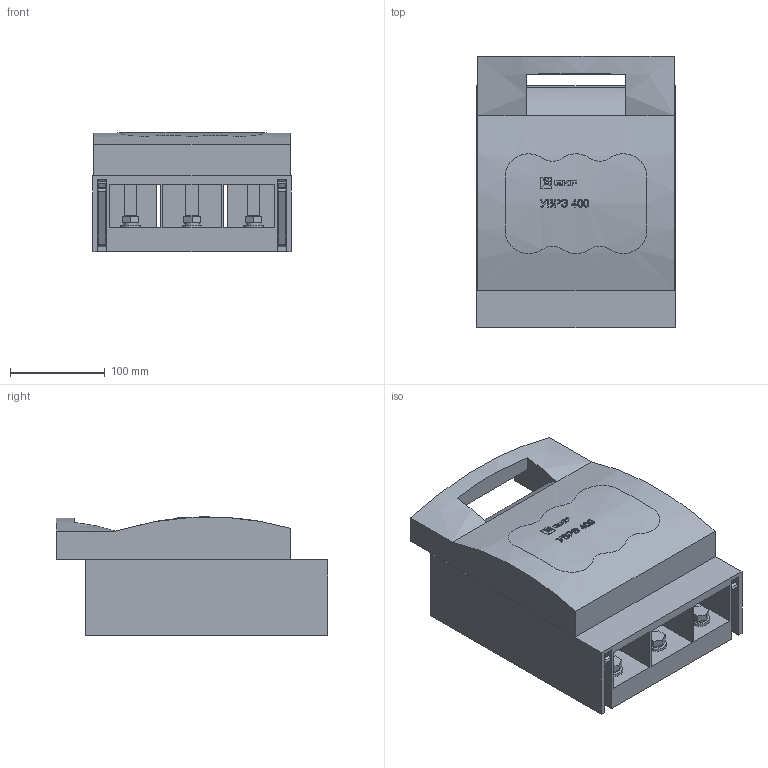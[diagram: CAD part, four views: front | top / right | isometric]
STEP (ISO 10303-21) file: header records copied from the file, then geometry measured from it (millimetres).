
FILE_DESCRIPTION (( 'STEP AP214' ), '1' );
FILE_NAME ('ÓÂÐÝ 400À îòêèäíîãî òèïà ïîä ïðåäîõðàíèòåëè ÏÏÍ (uvre-400).STEP', '2020-08-21T06:12:15', ( '' ), ( '' ), 'SwSTEP 2.0', 'SolidWorks 2019', '' );
FILE_SCHEMA (( 'AUTOMOTIVE_DESIGN' ));
Length unit declared in the file: millimetre
Products named in the file (3): Êðûøêà 400À; ÓÂÐÝ 400À îòêèäíîãî òèïà ïîä ïðåäîõðàíèòåëè ÏÏÍ (uvre-400); Êîðïóñ 400À
Assembly tree (2 placements, depth 2):
  ÓÂÐÝ 400À îòêèäíîãî òèïà ïîä ïðåäîõðàíèòåëè ÏÏÍ (uvre-400)
    Êîðïóñ 400À
    Êðûøêà 400À
Bounding box: 210 x 287.21 x 125.88 mm (x, y, z)
Volume: 2684696.8 mm3; surface area: 663100.5 mm2
Topology: 2 solids, 2 shells, 570 faces, 1591 edges, 1066 vertices
Faces by surface type: plane 352, bspline 158, cylinder 60
Entity records: 37805 total; most frequent: CARTESIAN_POINT 24216, ORIENTED_EDGE 3182, DIRECTION 2004, EDGE_CURVE 1591, VERTEX_POINT 1066, LINE 930, VECTOR 930, EDGE_LOOP 635
